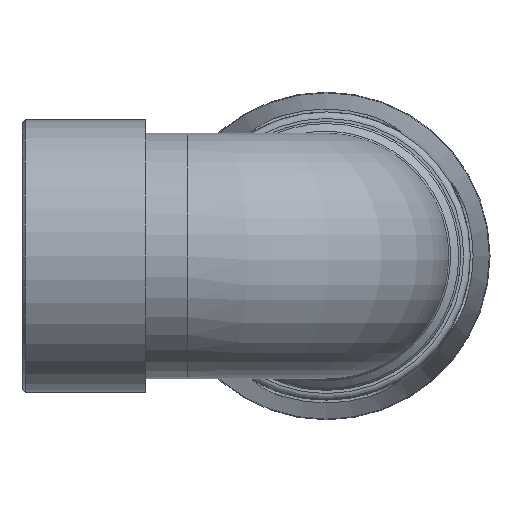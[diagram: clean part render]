
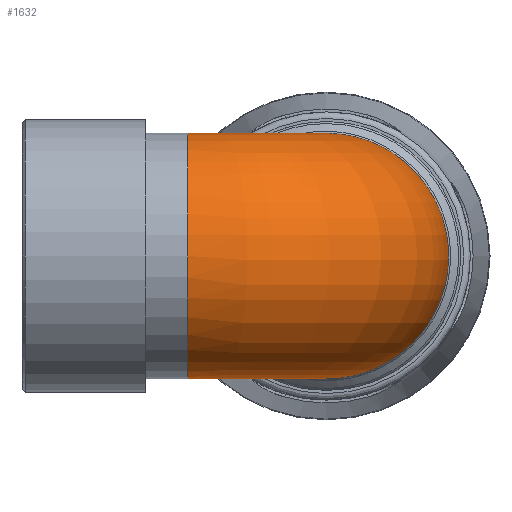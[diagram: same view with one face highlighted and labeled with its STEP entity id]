
A CAD part, left-side view. The second image highlights one B-rep face of the part: STEP entity #1632.
In plain terms, the highlighted toroidal (fillet/blend) face has major radius 29.56 mm and minor radius 26.234 mm.
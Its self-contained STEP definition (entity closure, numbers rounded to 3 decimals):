
#17=TOROIDAL_SURFACE('',#1782,29.56,26.234);
#186=B_SPLINE_CURVE_WITH_KNOTS('',3,(#2845,#2846,#2847,#2848,#2849,#2850,
#2851,#2852,#2853,#2854,#2855,#2856,#2857,#2858,#2859,#2860,#2861,#2862,
#2863,#2864,#2865,#2866),.UNSPECIFIED.,.T.,.F.,(4,1,1,1,1,1,1,1,1,1,1,1,
1,1,1,1,1,1,1,4),(-3.142,-2.917,-2.693,
-2.468,-2.244,-1.646,-1.346,
-1.047,-0.449,-0.15,0.15,
0.449,0.748,1.346,1.795,2.244,
2.468,2.693,2.917,3.142),
 .UNSPECIFIED.);
#365=FACE_BOUND('',#518,.T.);
#395=FACE_OUTER_BOUND('',#517,.T.);
#517=EDGE_LOOP('',(#1186));
#518=EDGE_LOOP('',(#1187));
#664=CIRCLE('',#1777,26.234);
#757=VERTEX_POINT('',#2843);
#761=VERTEX_POINT('',#2877);
#921=EDGE_CURVE('',#757,#757,#186,.T.);
#925=EDGE_CURVE('',#761,#761,#664,.T.);
#1186=ORIENTED_EDGE('',*,*,#921,.F.);
#1187=ORIENTED_EDGE('',*,*,#925,.T.);
#1632=ADVANCED_FACE('',(#395,#365),#17,.T.);
#1777=AXIS2_PLACEMENT_3D('',#2878,#2030,#2031);
#1782=AXIS2_PLACEMENT_3D('',#2886,#2040,#2041);
#2030=DIRECTION('center_axis',(0.,-1.,0.));
#2031=DIRECTION('ref_axis',(-1.,0.,0.));
#2040=DIRECTION('center_axis',(0.,0.,1.));
#2041=DIRECTION('ref_axis',(1.,0.,0.));
#2843=CARTESIAN_POINT('',(26.322,28.801,0.));
#2845=CARTESIAN_POINT('Ctrl Pts',(26.321,28.801,0.));
#2846=CARTESIAN_POINT('Ctrl Pts',(26.321,28.801,1.971));
#2847=CARTESIAN_POINT('Ctrl Pts',(26.134,27.567,5.913));
#2848=CARTESIAN_POINT('Ctrl Pts',(26.239,24.829,11.372));
#2849=CARTESIAN_POINT('Ctrl Pts',(26.344,21.377,16.325));
#2850=CARTESIAN_POINT('Ctrl Pts',(26.461,14.699,22.85));
#2851=CARTESIAN_POINT('Ctrl Pts',(26.504,5.131,26.723));
#2852=CARTESIAN_POINT('Ctrl Pts',(26.531,-5.536,26.013));
#2853=CARTESIAN_POINT('Ctrl Pts',(26.545,-15.526,22.244));
#2854=CARTESIAN_POINT('Ctrl Pts',(26.553,-23.09,14.205));
#2855=CARTESIAN_POINT('Ctrl Pts',(26.555,-26.248,4.001));
#2856=CARTESIAN_POINT('Ctrl Pts',(26.555,-26.256,-4.004));
#2857=CARTESIAN_POINT('Ctrl Pts',(26.553,-23.865,-11.642));
#2858=CARTESIAN_POINT('Ctrl Pts',(26.547,-17.815,-20.45));
#2859=CARTESIAN_POINT('Ctrl Pts',(26.536,-7.007,-26.55));
#2860=CARTESIAN_POINT('Ctrl Pts',(26.501,6.545,-26.375));
#2861=CARTESIAN_POINT('Ctrl Pts',(26.445,15.644,-21.909));
#2862=CARTESIAN_POINT('Ctrl Pts',(26.344,21.38,-16.328));
#2863=CARTESIAN_POINT('Ctrl Pts',(26.24,24.828,-11.37));
#2864=CARTESIAN_POINT('Ctrl Pts',(26.134,27.568,-5.914));
#2865=CARTESIAN_POINT('Ctrl Pts',(26.321,28.801,-1.971));
#2866=CARTESIAN_POINT('Ctrl Pts',(26.321,28.801,0.));
#2877=CARTESIAN_POINT('',(26.234,29.56,0.));
#2878=CARTESIAN_POINT('Origin',(0.,29.56,0.));
#2886=CARTESIAN_POINT('Origin',(29.56,29.56,0.));
